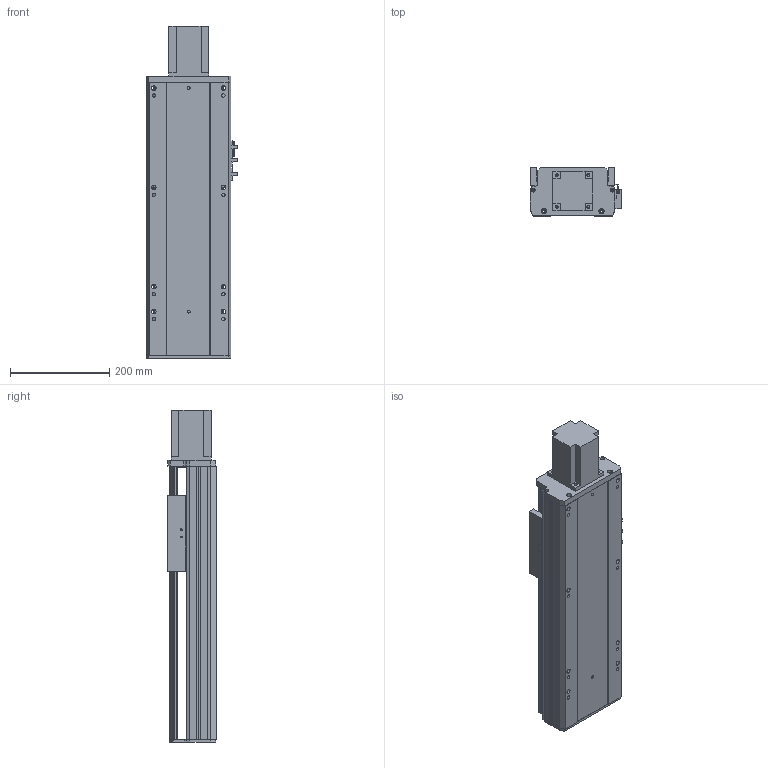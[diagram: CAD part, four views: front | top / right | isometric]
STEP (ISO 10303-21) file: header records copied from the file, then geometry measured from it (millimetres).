
FILE_DESCRIPTION (( 'STEP AP203' ), '1' );
FILE_NAME ('Y170-D10-S300-BD-P750W.STEP', '2020-01-22T03:52:43', ( '微软用户' ), ( '微软中国' ), 'SwSTEP 2.0', 'SolidWorks 2017', '' );
FILE_SCHEMA (( 'CONFIG_CONTROL_DESIGN' ));
Length unit declared in the file: millimetre
Products named in the file (10): Y170耜裔--準---; Y170-陔遴奻裔-BD; Y170--雄赽釱-梓--; YD-Y100-135-新外置传感挡片(通用）; Y170-D10-S300-BD-P750W; Y100-135俋离換覜ん; 170--掛极-BD; Y170-萇儂楊擘啣--; 135-盓傅釱-FK15; 侂狟750W
Assembly tree (11 placements, depth 2):
  Y170-D10-S300-BD-P750W
    YD-Y100-135-新外置传感挡片(通用）
    Y100-135俋离換覜ん  x3
    170--掛极-BD
    Y170-萇儂楊擘啣--
    135-盓傅釱-FK15
    侂狟750W
    Y170耜裔--準---
    Y170-陔遴奻裔-BD
    Y170--雄赽釱-梓--
Bounding box: 183.5 x 97 x 668.5 mm (x, y, z)
Volume: 3244494.1 mm3; surface area: 996747.4 mm2
Topology: 11 solids, 11 shells, 792 faces, 2211 edges, 1464 vertices
Faces by surface type: cylinder 402, plane 388, torus 2
Entity records: 25311 total; most frequent: CARTESIAN_POINT 4387, DIRECTION 4265, ORIENTED_EDGE 4086, EDGE_CURVE 2043, AXIS2_PLACEMENT_3D 1526, VERTEX_POINT 1352, LINE 1213, VECTOR 1213
